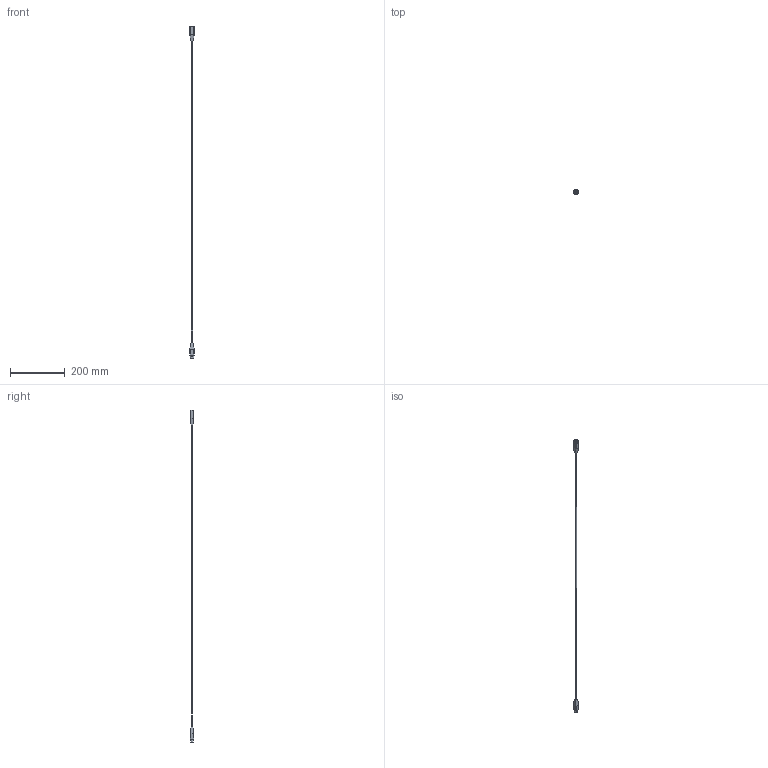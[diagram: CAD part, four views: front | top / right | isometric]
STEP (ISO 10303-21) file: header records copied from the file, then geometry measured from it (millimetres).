
FILE_DESCRIPTION(/* description */ (''),/* implementation_level */ '2;1');
FILE_NAME(/* name */ 'Z:\WEBSITE\DREAMWEAVER\MiniTec\Products\Modular_Workstations\Catalog_Pages\LIGHTING\CAD\STEP\33.9622_48 LED CONNECTING CABLE 48IN STRAIGHT.stp',/* time_stamp */ '2018-05-24T11:41:18-04:00',/* author */ ('amoles'),/* organization */ (''),/* preprocessor_version */ 'ST-DEVELOPER v17',/* originating_system */ 'Autodesk Inventor 2018',/* authorisation */ '');
FILE_SCHEMA (('AUTOMOTIVE_DESIGN { 1 0 10303 214 3 1 1 }'));
Length unit declared in the file: inch
Products named in the file (4): 33.9622_48 LED CONNECTING CABLE 48IN STRAIGHT; 33.9622 PLUG END FEMALE; 33.9622 PLUG END MALE; 33.9622_48 CORD STRAIGHT
Assembly tree (3 placements, depth 2):
  33.9622_48 LED CONNECTING CABLE 48IN STRAIGHT
    33.9622 PLUG END FEMALE
    33.9622 PLUG END MALE
    33.9622_48 CORD STRAIGHT
Bounding box: 16 x 13 x 1213.7 mm (x, y, z)
Volume: 41761.3 mm3; surface area: 29764.7 mm2
Topology: 3 solids, 3 shells, 82 faces, 192 edges, 118 vertices
Faces by surface type: plane 52, cylinder 20, cone 8, bspline 2
Full cylindrical faces by diameter (mm): 1.5 x4
Entity records: 2471 total; most frequent: CARTESIAN_POINT 443, DIRECTION 406, ORIENTED_EDGE 368, EDGE_CURVE 184, LINE 136, VECTOR 136, AXIS2_PLACEMENT_3D 135, VERTEX_POINT 118
